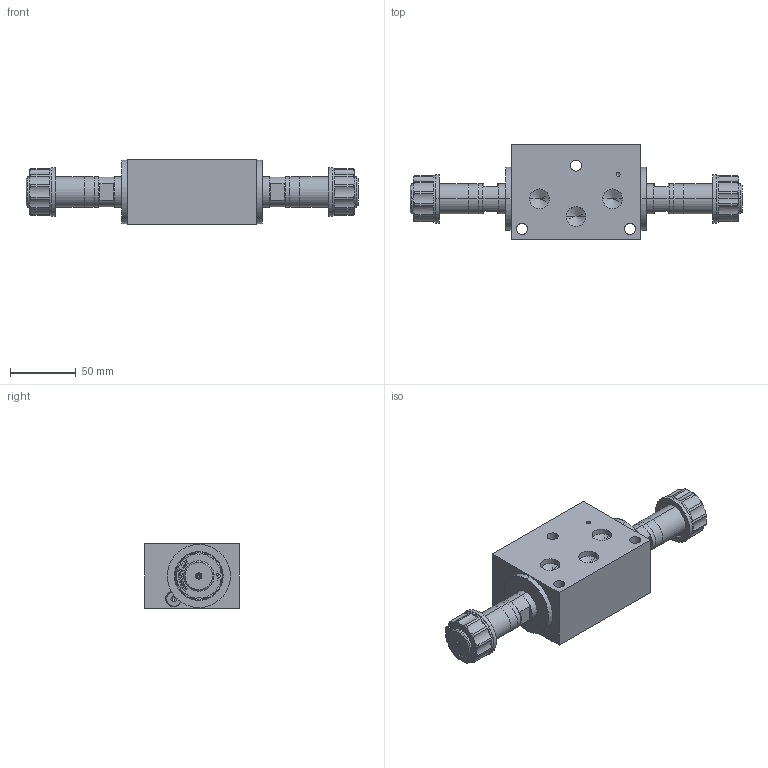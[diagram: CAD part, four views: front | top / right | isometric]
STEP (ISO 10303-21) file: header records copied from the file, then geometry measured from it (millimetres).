
FILE_DESCRIPTION (( 'STEP AP203' ), '1' );
FILE_NAME ('Control Section CMVA-MA06-A actuation at A and B.STEP', '2025-11-12T13:23:43', ( '' ), ( '' ), 'SwSTEP 2.0', 'SolidWorks 2024', '' );
FILE_SCHEMA (( 'CONFIG_CONTROL_DESIGN' ));
Length unit declared in the file: millimetre
Products named in the file (1): Control Section CMVA-MA06-A actuation at A and B
Bounding box: 252.5 x 72 x 49 mm (x, y, z)
Volume: 387750.6 mm3; surface area: 91006.3 mm2
Topology: 28 solids, 28 shells, 1762 faces, 4322 edges, 2680 vertices
Faces by surface type: plane 984, cylinder 342, cone 249, bspline 103, torus 84
Entity records: 54895 total; most frequent: CARTESIAN_POINT 13336, DIRECTION 8704, ORIENTED_EDGE 8556, EDGE_CURVE 4278, AXIS2_PLACEMENT_3D 3036, VERTEX_POINT 2680, VECTOR 2632, LINE 2632
